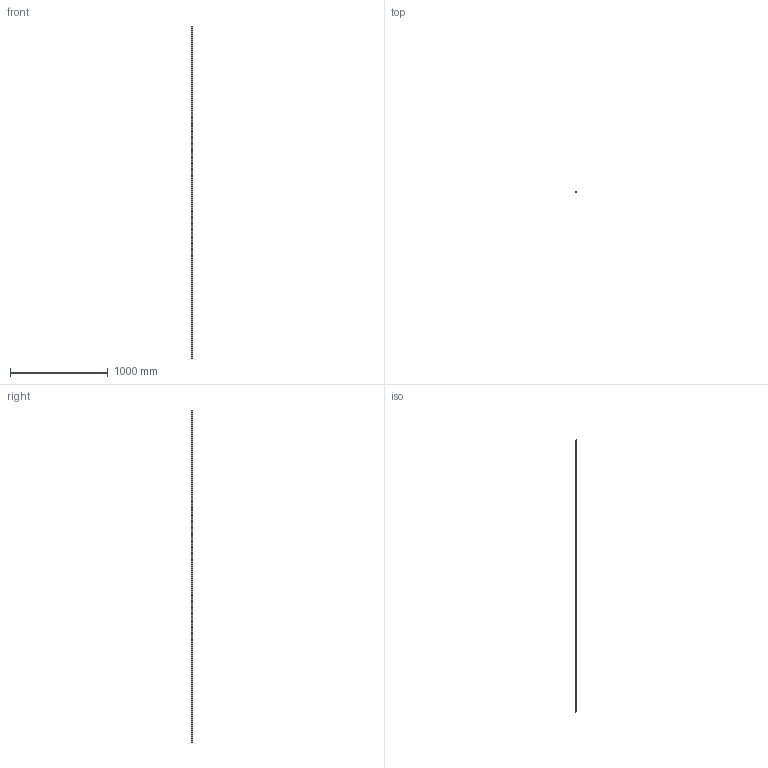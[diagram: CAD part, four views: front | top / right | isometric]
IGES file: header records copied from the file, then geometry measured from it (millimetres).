
Start section: SolidWorks IGES file using analytic representation for surfaces
Global section: file name: C:\Users\IanO\Desktop\L1016_v2\L1016.BL15_v2\L1016.BL15_v2_20190611_IGES\L1016.BL15-3400.igs; native system: SolidWorks 2017; preprocessor: SolidWorks 2017; author: IanO; date: 190612.123614; units: millimetre
Bounding box: 15 x 13 x 3400 mm (x, y, z)
Surface area: 207589.3 mm2 (no closed solid volume)
Topology: 0 solids, 0 shells, 311 faces, 8360 edges, 8360 vertices
Faces by surface type: revolution 232, bspline 79
